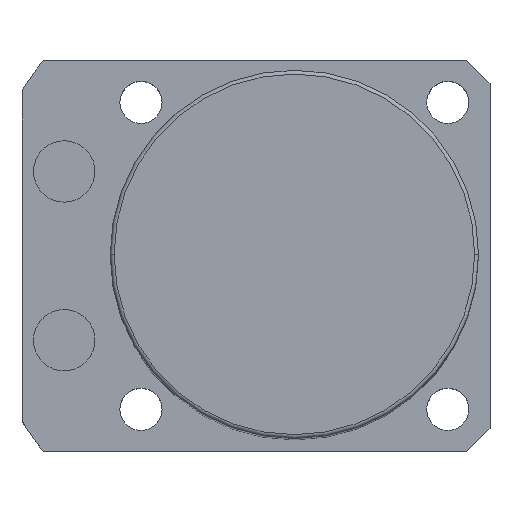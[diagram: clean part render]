
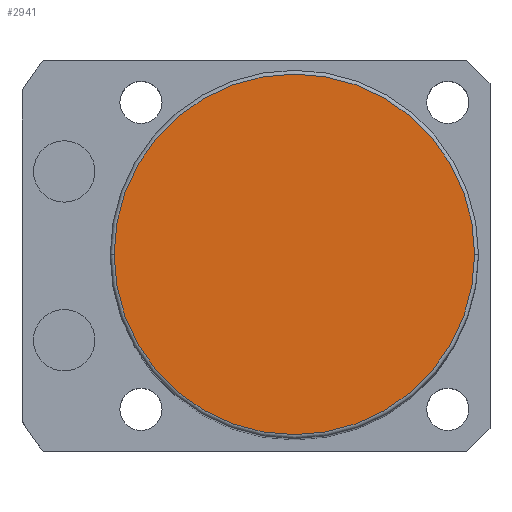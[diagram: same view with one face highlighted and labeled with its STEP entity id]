
A CAD part, top view. The second image highlights one B-rep face of the part: STEP entity #2941.
In plain terms, the highlighted planar face has unit normal (0, 0, 1).
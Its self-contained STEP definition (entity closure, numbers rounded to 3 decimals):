
#99 = CIRCLE ( 'NONE', #673, 23.5 ) ;
#672 = VERTEX_POINT ( 'NONE', #6513 ) ;
#673 = AXIS2_PLACEMENT_3D ( 'NONE', #6306, #1228, #694 ) ;
#694 = DIRECTION ( 'NONE',  ( 1., 0., 0. ) ) ;
#1129 = PLANE ( 'NONE',  #2611 ) ;
#1182 = ORIENTED_EDGE ( 'NONE', *, *, #1666, .T. ) ;
#1228 = DIRECTION ( 'NONE',  ( 0., 0., 1. ) ) ;
#1666 = EDGE_CURVE ( 'NONE', #672, #4985, #5731, .T. ) ;
#2611 = AXIS2_PLACEMENT_3D ( 'NONE', #3224, #2671, #4202 ) ;
#2671 = DIRECTION ( 'NONE',  ( 0., 0., 1. ) ) ;
#2777 = ORIENTED_EDGE ( 'NONE', *, *, #3501, .T. ) ;
#2941 = ADVANCED_FACE ( 'NONE', ( #5505 ), #1129, .T. ) ;
#3167 = DIRECTION ( 'NONE',  ( 0., 0., 1. ) ) ;
#3224 = CARTESIAN_POINT ( 'NONE',  ( 0., 0., 121. ) ) ;
#3501 = EDGE_CURVE ( 'NONE', #4985, #672, #99, .T. ) ;
#3543 = EDGE_LOOP ( 'NONE', ( #2777, #1182 ) ) ;
#4202 = DIRECTION ( 'NONE',  ( 1., 0., 0. ) ) ;
#4711 = DIRECTION ( 'NONE',  ( 1., 0., 0. ) ) ;
#4985 = VERTEX_POINT ( 'NONE', #6429 ) ;
#5505 = FACE_OUTER_BOUND ( 'NONE', #3543, .T. ) ;
#5731 = CIRCLE ( 'NONE', #6219, 23.5 ) ;
#6216 = CARTESIAN_POINT ( 'NONE',  ( 0., 0., 121. ) ) ;
#6219 = AXIS2_PLACEMENT_3D ( 'NONE', #6216, #3167, #4711 ) ;
#6306 = CARTESIAN_POINT ( 'NONE',  ( 0., 0., 121. ) ) ;
#6429 = CARTESIAN_POINT ( 'NONE',  ( 23.5, 0., 121. ) ) ;
#6513 = CARTESIAN_POINT ( 'NONE',  ( -23.5, 0., 121. ) ) ;
